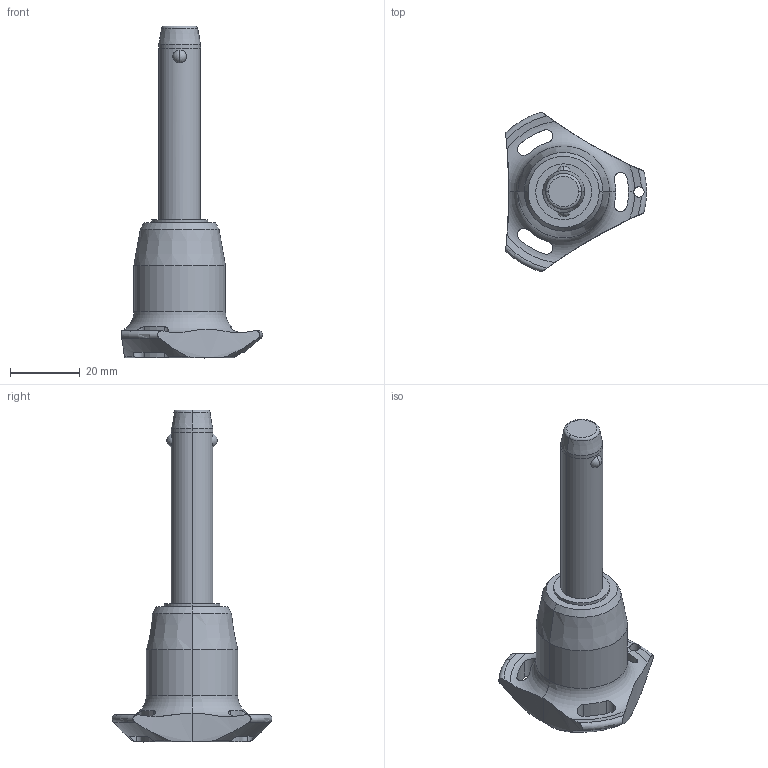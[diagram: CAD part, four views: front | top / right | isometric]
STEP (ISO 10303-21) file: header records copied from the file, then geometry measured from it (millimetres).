
FILE_DESCRIPTION (( 'STEP AP203' ), '1' );
FILE_NAME ('QR1716.M12-045-T.step', '2025-11-13T10:36:18', ( '' ), ( '' ), 'SwSTEP 2.0', 'SolidWorks 2019', '' );
FILE_SCHEMA (( 'CONFIG_CONTROL_DESIGN' ));
Length unit declared in the file: millimetre
Products named in the file (1): QR1716.M12-045-T
Bounding box: 40.5 x 45.88 x 95.3 mm (x, y, z)
Volume: 28224.1 mm3; surface area: 8034.3 mm2
Topology: 1 solids, 1 shells, 68 faces, 184 edges, 117 vertices
Faces by surface type: cylinder 32, cone 14, torus 11, sphere 6, plane 5
Entity records: 2942 total; most frequent: CARTESIAN_POINT 1186, ORIENTED_EDGE 368, DIRECTION 345, EDGE_CURVE 184, AXIS2_PLACEMENT_3D 154, VERTEX_POINT 117, CIRCLE 85, EDGE_LOOP 75
